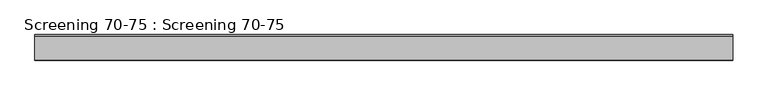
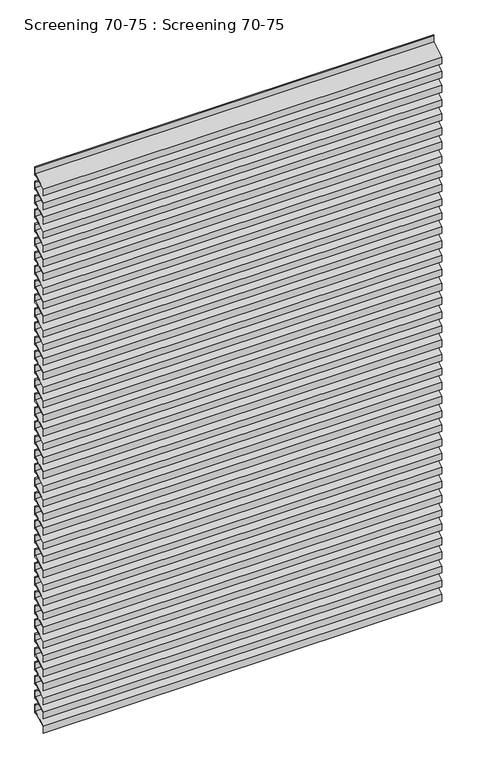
"""IFC4 building model written with IfcOpenShell, lengths in millimetres: plate geometry, Screening 70-75 : Screening 70-75."""

from ifc_helpers import new_model, si_unit, point, frame, frame_2d, origin, place, context, project, spatial, polyline, circle_curve, trimmed, segment, composite_curve, outline, extrude, source, transform, mapped, element, save


def screening_70_75_screening_70_75_e231e1b9(model_context):
    return source(origin(), model_context, "Body", "SweptSolid", [
        extrude(outline(composite_curve([segment(polyline([(-73.0, 2862.1), (-73.0, 2897.5291809)]), True, "CONTINUOUS"), segment(trimmed(circle_curve(frame_2d((-534.237547, 3776.0902569)), 992.2749816), [point((-73.0, 2897.5291809))], [point((-4.0, 2937.3663555))], True, "CARTESIAN"), True, "CONTINUOUS"), segment(polyline([(-4.0, 2937.3663555), (-4.0, 2968.009614), (0.0, 2971.1725089), (0.0, 2926.6482493), (-17.4871094, 2926.6482493)]), True, "CONTINUOUS"), segment(trimmed(circle_curve(frame_2d((-534.237547, 3776.0902569)), 994.2749816), [point((-17.4871094, 2926.6482493))], [point((-71.0, 2896.3211315))], False, "CARTESIAN"), True, "CONTINUOUS"), segment(polyline([(-71.0, 2896.3211315), (-71.0, 2862.1), (-73.0, 2862.1)]), True, "CONTINUOUS")], self_intersect=False)), frame((-1000.0, 0.0, 0.0), z_axis=(1.0, 0.0, 0.0), x_axis=(0.0, 1.0, 0.0)), (0.0, 0.0, 1.0), 2000.0),
        extrude(outline(composite_curve([segment(polyline([(-73.0, 2787.1), (-73.0, 2822.5291809)]), True, "CONTINUOUS"), segment(trimmed(circle_curve(frame_2d((-534.237547, 3701.0902569)), 992.2749816), [point((-73.0, 2822.5291809))], [point((-4.0, 2862.3663555))], True, "CARTESIAN"), True, "CONTINUOUS"), segment(polyline([(-4.0, 2862.3663555), (-4.0, 2893.009614), (0.0, 2896.1725089), (0.0, 2851.6482493), (-17.4871094, 2851.6482493)]), True, "CONTINUOUS"), segment(trimmed(circle_curve(frame_2d((-534.237547, 3701.0902569)), 994.2749816), [point((-17.4871094, 2851.6482493))], [point((-71.0, 2821.3211315))], False, "CARTESIAN"), True, "CONTINUOUS"), segment(polyline([(-71.0, 2821.3211315), (-71.0, 2787.1), (-73.0, 2787.1)]), True, "CONTINUOUS")], self_intersect=False)), frame((-1000.0, 0.0, 0.0), z_axis=(1.0, 0.0, 0.0), x_axis=(0.0, 1.0, 0.0)), (0.0, 0.0, 1.0), 2000.0),
        extrude(outline(composite_curve([segment(polyline([(-73.0, 2712.1), (-73.0, 2747.5291809)]), True, "CONTINUOUS"), segment(trimmed(circle_curve(frame_2d((-534.237547, 3626.0902569)), 992.2749816), [point((-73.0, 2747.5291809))], [point((-4.0, 2787.3663555))], True, "CARTESIAN"), True, "CONTINUOUS"), segment(polyline([(-4.0, 2787.3663555), (-4.0, 2818.009614), (0.0, 2821.1725089), (0.0, 2776.6482493), (-17.4871094, 2776.6482493)]), True, "CONTINUOUS"), segment(trimmed(circle_curve(frame_2d((-534.237547, 3626.0902569)), 994.2749816), [point((-17.4871094, 2776.6482493))], [point((-71.0, 2746.3211315))], False, "CARTESIAN"), True, "CONTINUOUS"), segment(polyline([(-71.0, 2746.3211315), (-71.0, 2712.1), (-73.0, 2712.1)]), True, "CONTINUOUS")], self_intersect=False)), frame((-1000.0, 0.0, 0.0), z_axis=(1.0, 0.0, 0.0), x_axis=(0.0, 1.0, 0.0)), (0.0, 0.0, 1.0), 2000.0),
        extrude(outline(composite_curve([segment(polyline([(-73.0, 2637.1), (-73.0, 2672.5291809)]), True, "CONTINUOUS"), segment(trimmed(circle_curve(frame_2d((-534.237547, 3551.0902569)), 992.2749816), [point((-73.0, 2672.5291809))], [point((-4.0, 2712.3663555))], True, "CARTESIAN"), True, "CONTINUOUS"), segment(polyline([(-4.0, 2712.3663555), (-4.0, 2743.009614), (0.0, 2746.1725089), (0.0, 2701.6482493), (-17.4871094, 2701.6482493)]), True, "CONTINUOUS"), segment(trimmed(circle_curve(frame_2d((-534.237547, 3551.0902569)), 994.2749816), [point((-17.4871094, 2701.6482493))], [point((-71.0, 2671.3211315))], False, "CARTESIAN"), True, "CONTINUOUS"), segment(polyline([(-71.0, 2671.3211315), (-71.0, 2637.1), (-73.0, 2637.1)]), True, "CONTINUOUS")], self_intersect=False)), frame((-1000.0, 0.0, 0.0), z_axis=(1.0, 0.0, 0.0), x_axis=(0.0, 1.0, 0.0)), (0.0, 0.0, 1.0), 2000.0),
        extrude(outline(composite_curve([segment(polyline([(-73.0, 2562.1), (-73.0, 2597.5291809)]), True, "CONTINUOUS"), segment(trimmed(circle_curve(frame_2d((-534.237547, 3476.0902569)), 992.2749816), [point((-73.0, 2597.5291809))], [point((-4.0, 2637.3663555))], True, "CARTESIAN"), True, "CONTINUOUS"), segment(polyline([(-4.0, 2637.3663555), (-4.0, 2668.009614), (0.0, 2671.1725089), (0.0, 2626.6482493), (-17.4871094, 2626.6482493)]), True, "CONTINUOUS"), segment(trimmed(circle_curve(frame_2d((-534.237547, 3476.0902569)), 994.2749816), [point((-17.4871094, 2626.6482493))], [point((-71.0, 2596.3211315))], False, "CARTESIAN"), True, "CONTINUOUS"), segment(polyline([(-71.0, 2596.3211315), (-71.0, 2562.1), (-73.0, 2562.1)]), True, "CONTINUOUS")], self_intersect=False)), frame((-1000.0, 0.0, 0.0), z_axis=(1.0, 0.0, 0.0), x_axis=(0.0, 1.0, 0.0)), (0.0, 0.0, 1.0), 2000.0),
        extrude(outline(composite_curve([segment(polyline([(-73.0, 2487.1), (-73.0, 2522.5291809)]), True, "CONTINUOUS"), segment(trimmed(circle_curve(frame_2d((-534.237547, 3401.0902569)), 992.2749816), [point((-73.0, 2522.5291809))], [point((-4.0, 2562.3663555))], True, "CARTESIAN"), True, "CONTINUOUS"), segment(polyline([(-4.0, 2562.3663555), (-4.0, 2593.009614), (0.0, 2596.1725089), (0.0, 2551.6482493), (-17.4871094, 2551.6482493)]), True, "CONTINUOUS"), segment(trimmed(circle_curve(frame_2d((-534.237547, 3401.0902569)), 994.2749816), [point((-17.4871094, 2551.6482493))], [point((-71.0, 2521.3211315))], False, "CARTESIAN"), True, "CONTINUOUS"), segment(polyline([(-71.0, 2521.3211315), (-71.0, 2487.1), (-73.0, 2487.1)]), True, "CONTINUOUS")], self_intersect=False)), frame((-1000.0, 0.0, 0.0), z_axis=(1.0, 0.0, 0.0), x_axis=(0.0, 1.0, 0.0)), (0.0, 0.0, 1.0), 2000.0),
        extrude(outline(composite_curve([segment(polyline([(-73.0, 2412.1), (-73.0, 2447.5291809)]), True, "CONTINUOUS"), segment(trimmed(circle_curve(frame_2d((-534.237547, 3326.0902569)), 992.2749816), [point((-73.0, 2447.5291809))], [point((-4.0, 2487.3663555))], True, "CARTESIAN"), True, "CONTINUOUS"), segment(polyline([(-4.0, 2487.3663555), (-4.0, 2518.009614), (0.0, 2521.1725089), (0.0, 2476.6482493), (-17.4871094, 2476.6482493)]), True, "CONTINUOUS"), segment(trimmed(circle_curve(frame_2d((-534.237547, 3326.0902569)), 994.2749816), [point((-17.4871094, 2476.6482493))], [point((-71.0, 2446.3211315))], False, "CARTESIAN"), True, "CONTINUOUS"), segment(polyline([(-71.0, 2446.3211315), (-71.0, 2412.1), (-73.0, 2412.1)]), True, "CONTINUOUS")], self_intersect=False)), frame((-1000.0, 0.0, 0.0), z_axis=(1.0, 0.0, 0.0), x_axis=(0.0, 1.0, 0.0)), (0.0, 0.0, 1.0), 2000.0),
        extrude(outline(composite_curve([segment(polyline([(-73.0, 2337.1), (-73.0, 2372.5291809)]), True, "CONTINUOUS"), segment(trimmed(circle_curve(frame_2d((-534.237547, 3251.0902569)), 992.2749816), [point((-73.0, 2372.5291809))], [point((-4.0, 2412.3663555))], True, "CARTESIAN"), True, "CONTINUOUS"), segment(polyline([(-4.0, 2412.3663555), (-4.0, 2443.009614), (0.0, 2446.1725089), (0.0, 2401.6482493), (-17.4871094, 2401.6482493)]), True, "CONTINUOUS"), segment(trimmed(circle_curve(frame_2d((-534.237547, 3251.0902569)), 994.2749816), [point((-17.4871094, 2401.6482493))], [point((-71.0, 2371.3211315))], False, "CARTESIAN"), True, "CONTINUOUS"), segment(polyline([(-71.0, 2371.3211315), (-71.0, 2337.1), (-73.0, 2337.1)]), True, "CONTINUOUS")], self_intersect=False)), frame((-1000.0, 0.0, 0.0), z_axis=(1.0, 0.0, 0.0), x_axis=(0.0, 1.0, 0.0)), (0.0, 0.0, 1.0), 2000.0),
        extrude(outline(composite_curve([segment(polyline([(-73.0, 2262.1), (-73.0, 2297.5291809)]), True, "CONTINUOUS"), segment(trimmed(circle_curve(frame_2d((-534.237547, 3176.0902569)), 992.2749816), [point((-73.0, 2297.5291809))], [point((-4.0, 2337.3663555))], True, "CARTESIAN"), True, "CONTINUOUS"), segment(polyline([(-4.0, 2337.3663555), (-4.0, 2368.009614), (0.0, 2371.1725089), (0.0, 2326.6482493), (-17.4871094, 2326.6482493)]), True, "CONTINUOUS"), segment(trimmed(circle_curve(frame_2d((-534.237547, 3176.0902569)), 994.2749816), [point((-17.4871094, 2326.6482493))], [point((-71.0, 2296.3211315))], False, "CARTESIAN"), True, "CONTINUOUS"), segment(polyline([(-71.0, 2296.3211315), (-71.0, 2262.1), (-73.0, 2262.1)]), True, "CONTINUOUS")], self_intersect=False)), frame((-1000.0, 0.0, 0.0), z_axis=(1.0, 0.0, 0.0), x_axis=(0.0, 1.0, 0.0)), (0.0, 0.0, 1.0), 2000.0),
        extrude(outline(composite_curve([segment(polyline([(-73.0, 2187.1), (-73.0, 2222.5291809)]), True, "CONTINUOUS"), segment(trimmed(circle_curve(frame_2d((-534.237547, 3101.0902569)), 992.2749816), [point((-73.0, 2222.5291809))], [point((-4.0, 2262.3663555))], True, "CARTESIAN"), True, "CONTINUOUS"), segment(polyline([(-4.0, 2262.3663555), (-4.0, 2293.009614), (0.0, 2296.1725089), (0.0, 2251.6482493), (-17.4871094, 2251.6482493)]), True, "CONTINUOUS"), segment(trimmed(circle_curve(frame_2d((-534.237547, 3101.0902569)), 994.2749816), [point((-17.4871094, 2251.6482493))], [point((-71.0, 2221.3211315))], False, "CARTESIAN"), True, "CONTINUOUS"), segment(polyline([(-71.0, 2221.3211315), (-71.0, 2187.1), (-73.0, 2187.1)]), True, "CONTINUOUS")], self_intersect=False)), frame((-1000.0, 0.0, 0.0), z_axis=(1.0, 0.0, 0.0), x_axis=(0.0, 1.0, 0.0)), (0.0, 0.0, 1.0), 2000.0),
        extrude(outline(composite_curve([segment(polyline([(-73.0, 2112.1), (-73.0, 2147.5291809)]), True, "CONTINUOUS"), segment(trimmed(circle_curve(frame_2d((-534.237547, 3026.0902569)), 992.2749816), [point((-73.0, 2147.5291809))], [point((-4.0, 2187.3663555))], True, "CARTESIAN"), True, "CONTINUOUS"), segment(polyline([(-4.0, 2187.3663555), (-4.0, 2218.009614), (0.0, 2221.1725089), (0.0, 2176.6482493), (-17.4871094, 2176.6482493)]), True, "CONTINUOUS"), segment(trimmed(circle_curve(frame_2d((-534.237547, 3026.0902569)), 994.2749816), [point((-17.4871094, 2176.6482493))], [point((-71.0, 2146.3211315))], False, "CARTESIAN"), True, "CONTINUOUS"), segment(polyline([(-71.0, 2146.3211315), (-71.0, 2112.1), (-73.0, 2112.1)]), True, "CONTINUOUS")], self_intersect=False)), frame((-1000.0, 0.0, 0.0), z_axis=(1.0, 0.0, 0.0), x_axis=(0.0, 1.0, 0.0)), (0.0, 0.0, 1.0), 2000.0),
        extrude(outline(composite_curve([segment(polyline([(-73.0, 2037.1), (-73.0, 2072.5291809)]), True, "CONTINUOUS"), segment(trimmed(circle_curve(frame_2d((-534.237547, 2951.0902569)), 992.2749816), [point((-73.0, 2072.5291809))], [point((-4.0, 2112.3663555))], True, "CARTESIAN"), True, "CONTINUOUS"), segment(polyline([(-4.0, 2112.3663555), (-4.0, 2143.009614), (0.0, 2146.1725089), (0.0, 2101.6482493), (-17.4871094, 2101.6482493)]), True, "CONTINUOUS"), segment(trimmed(circle_curve(frame_2d((-534.237547, 2951.0902569)), 994.2749816), [point((-17.4871094, 2101.6482493))], [point((-71.0, 2071.3211315))], False, "CARTESIAN"), True, "CONTINUOUS"), segment(polyline([(-71.0, 2071.3211315), (-71.0, 2037.1), (-73.0, 2037.1)]), True, "CONTINUOUS")], self_intersect=False)), frame((-1000.0, 0.0, 0.0), z_axis=(1.0, 0.0, 0.0), x_axis=(0.0, 1.0, 0.0)), (0.0, 0.0, 1.0), 2000.0),
        extrude(outline(composite_curve([segment(polyline([(-73.0, 1962.1), (-73.0, 1997.5291809)]), True, "CONTINUOUS"), segment(trimmed(circle_curve(frame_2d((-534.237547, 2876.0902569)), 992.2749816), [point((-73.0, 1997.5291809))], [point((-4.0, 2037.3663555))], True, "CARTESIAN"), True, "CONTINUOUS"), segment(polyline([(-4.0, 2037.3663555), (-4.0, 2068.009614), (0.0, 2071.1725089), (0.0, 2026.6482493), (-17.4871094, 2026.6482493)]), True, "CONTINUOUS"), segment(trimmed(circle_curve(frame_2d((-534.237547, 2876.0902569)), 994.2749816), [point((-17.4871094, 2026.6482493))], [point((-71.0, 1996.3211315))], False, "CARTESIAN"), True, "CONTINUOUS"), segment(polyline([(-71.0, 1996.3211315), (-71.0, 1962.1), (-73.0, 1962.1)]), True, "CONTINUOUS")], self_intersect=False)), frame((-1000.0, 0.0, 0.0), z_axis=(1.0, 0.0, 0.0), x_axis=(0.0, 1.0, 0.0)), (0.0, 0.0, 1.0), 2000.0),
        extrude(outline(composite_curve([segment(polyline([(-73.0, 1887.1), (-73.0, 1922.5291809)]), True, "CONTINUOUS"), segment(trimmed(circle_curve(frame_2d((-534.237547, 2801.0902569)), 992.2749816), [point((-73.0, 1922.5291809))], [point((-4.0, 1962.3663555))], True, "CARTESIAN"), True, "CONTINUOUS"), segment(polyline([(-4.0, 1962.3663555), (-4.0, 1993.009614), (0.0, 1996.1725089), (0.0, 1951.6482493), (-17.4871094, 1951.6482493)]), True, "CONTINUOUS"), segment(trimmed(circle_curve(frame_2d((-534.237547, 2801.0902569)), 994.2749816), [point((-17.4871094, 1951.6482493))], [point((-71.0, 1921.3211315))], False, "CARTESIAN"), True, "CONTINUOUS"), segment(polyline([(-71.0, 1921.3211315), (-71.0, 1887.1), (-73.0, 1887.1)]), True, "CONTINUOUS")], self_intersect=False)), frame((-1000.0, 0.0, 0.0), z_axis=(1.0, 0.0, 0.0), x_axis=(0.0, 1.0, 0.0)), (0.0, 0.0, 1.0), 2000.0),
        extrude(outline(composite_curve([segment(polyline([(-73.0, 1812.1), (-73.0, 1847.5291809)]), True, "CONTINUOUS"), segment(trimmed(circle_curve(frame_2d((-534.237547, 2726.0902569)), 992.2749816), [point((-73.0, 1847.5291809))], [point((-4.0, 1887.3663555))], True, "CARTESIAN"), True, "CONTINUOUS"), segment(polyline([(-4.0, 1887.3663555), (-4.0, 1918.009614), (0.0, 1921.1725089), (0.0, 1876.6482493), (-17.4871094, 1876.6482493)]), True, "CONTINUOUS"), segment(trimmed(circle_curve(frame_2d((-534.237547, 2726.0902569)), 994.2749816), [point((-17.4871094, 1876.6482493))], [point((-71.0, 1846.3211315))], False, "CARTESIAN"), True, "CONTINUOUS"), segment(polyline([(-71.0, 1846.3211315), (-71.0, 1812.1), (-73.0, 1812.1)]), True, "CONTINUOUS")], self_intersect=False)), frame((-1000.0, 0.0, 0.0), z_axis=(1.0, 0.0, 0.0), x_axis=(0.0, 1.0, 0.0)), (0.0, 0.0, 1.0), 2000.0),
        extrude(outline(composite_curve([segment(polyline([(-73.0, 1737.1), (-73.0, 1772.5291809)]), True, "CONTINUOUS"), segment(trimmed(circle_curve(frame_2d((-534.237547, 2651.0902569)), 992.2749816), [point((-73.0, 1772.5291809))], [point((-4.0, 1812.3663555))], True, "CARTESIAN"), True, "CONTINUOUS"), segment(polyline([(-4.0, 1812.3663555), (-4.0, 1843.009614), (0.0, 1846.1725089), (0.0, 1801.6482493), (-17.4871094, 1801.6482493)]), True, "CONTINUOUS"), segment(trimmed(circle_curve(frame_2d((-534.237547, 2651.0902569)), 994.2749816), [point((-17.4871094, 1801.6482493))], [point((-71.0, 1771.3211315))], False, "CARTESIAN"), True, "CONTINUOUS"), segment(polyline([(-71.0, 1771.3211315), (-71.0, 1737.1), (-73.0, 1737.1)]), True, "CONTINUOUS")], self_intersect=False)), frame((-1000.0, 0.0, 0.0), z_axis=(1.0, 0.0, 0.0), x_axis=(0.0, 1.0, 0.0)), (0.0, 0.0, 1.0), 2000.0),
        extrude(outline(composite_curve([segment(polyline([(-73.0, 1662.1), (-73.0, 1697.5291809)]), True, "CONTINUOUS"), segment(trimmed(circle_curve(frame_2d((-534.237547, 2576.0902569)), 992.2749816), [point((-73.0, 1697.5291809))], [point((-4.0, 1737.3663555))], True, "CARTESIAN"), True, "CONTINUOUS"), segment(polyline([(-4.0, 1737.3663555), (-4.0, 1768.009614), (0.0, 1771.1725089), (0.0, 1726.6482493), (-17.4871094, 1726.6482493)]), True, "CONTINUOUS"), segment(trimmed(circle_curve(frame_2d((-534.237547, 2576.0902569)), 994.2749816), [point((-17.4871094, 1726.6482493))], [point((-71.0, 1696.3211315))], False, "CARTESIAN"), True, "CONTINUOUS"), segment(polyline([(-71.0, 1696.3211315), (-71.0, 1662.1), (-73.0, 1662.1)]), True, "CONTINUOUS")], self_intersect=False)), frame((-1000.0, 0.0, 0.0), z_axis=(1.0, 0.0, 0.0), x_axis=(0.0, 1.0, 0.0)), (0.0, 0.0, 1.0), 2000.0),
        extrude(outline(composite_curve([segment(polyline([(-73.0, 1587.1), (-73.0, 1622.5291809)]), True, "CONTINUOUS"), segment(trimmed(circle_curve(frame_2d((-534.237547, 2501.0902569)), 992.2749816), [point((-73.0, 1622.5291809))], [point((-4.0, 1662.3663555))], True, "CARTESIAN"), True, "CONTINUOUS"), segment(polyline([(-4.0, 1662.3663555), (-4.0, 1693.009614), (0.0, 1696.1725089), (0.0, 1651.6482493), (-17.4871094, 1651.6482493)]), True, "CONTINUOUS"), segment(trimmed(circle_curve(frame_2d((-534.237547, 2501.0902569)), 994.2749816), [point((-17.4871094, 1651.6482493))], [point((-71.0, 1621.3211315))], False, "CARTESIAN"), True, "CONTINUOUS"), segment(polyline([(-71.0, 1621.3211315), (-71.0, 1587.1), (-73.0, 1587.1)]), True, "CONTINUOUS")], self_intersect=False)), frame((-1000.0, 0.0, 0.0), z_axis=(1.0, 0.0, 0.0), x_axis=(0.0, 1.0, 0.0)), (0.0, 0.0, 1.0), 2000.0),
        extrude(outline(composite_curve([segment(polyline([(-73.0, 1512.1), (-73.0, 1547.5291809)]), True, "CONTINUOUS"), segment(trimmed(circle_curve(frame_2d((-534.237547, 2426.0902569)), 992.2749816), [point((-73.0, 1547.5291809))], [point((-4.0, 1587.3663555))], True, "CARTESIAN"), True, "CONTINUOUS"), segment(polyline([(-4.0, 1587.3663555), (-4.0, 1618.009614), (0.0, 1621.1725089), (0.0, 1576.6482493), (-17.4871094, 1576.6482493)]), True, "CONTINUOUS"), segment(trimmed(circle_curve(frame_2d((-534.237547, 2426.0902569)), 994.2749816), [point((-17.4871094, 1576.6482493))], [point((-71.0, 1546.3211315))], False, "CARTESIAN"), True, "CONTINUOUS"), segment(polyline([(-71.0, 1546.3211315), (-71.0, 1512.1), (-73.0, 1512.1)]), True, "CONTINUOUS")], self_intersect=False)), frame((-1000.0, 0.0, 0.0), z_axis=(1.0, 0.0, 0.0), x_axis=(0.0, 1.0, 0.0)), (0.0, 0.0, 1.0), 2000.0),
        extrude(outline(composite_curve([segment(polyline([(-73.0, 1437.1), (-73.0, 1472.5291809)]), True, "CONTINUOUS"), segment(trimmed(circle_curve(frame_2d((-534.237547, 2351.0902569)), 992.2749816), [point((-73.0, 1472.5291809))], [point((-4.0, 1512.3663555))], True, "CARTESIAN"), True, "CONTINUOUS"), segment(polyline([(-4.0, 1512.3663555), (-4.0, 1543.009614), (0.0, 1546.1725089), (0.0, 1501.6482493), (-17.4871094, 1501.6482493)]), True, "CONTINUOUS"), segment(trimmed(circle_curve(frame_2d((-534.237547, 2351.0902569)), 994.2749816), [point((-17.4871094, 1501.6482493))], [point((-71.0, 1471.3211315))], False, "CARTESIAN"), True, "CONTINUOUS"), segment(polyline([(-71.0, 1471.3211315), (-71.0, 1437.1), (-73.0, 1437.1)]), True, "CONTINUOUS")], self_intersect=False)), frame((-1000.0, 0.0, 0.0), z_axis=(1.0, 0.0, 0.0), x_axis=(0.0, 1.0, 0.0)), (0.0, 0.0, 1.0), 2000.0),
        extrude(outline(composite_curve([segment(polyline([(-73.0, 1362.1), (-73.0, 1397.5291809)]), True, "CONTINUOUS"), segment(trimmed(circle_curve(frame_2d((-534.237547, 2276.0902569)), 992.2749816), [point((-73.0, 1397.5291809))], [point((-4.0, 1437.3663555))], True, "CARTESIAN"), True, "CONTINUOUS"), segment(polyline([(-4.0, 1437.3663555), (-4.0, 1468.009614), (0.0, 1471.1725089), (0.0, 1426.6482493), (-17.4871094, 1426.6482493)]), True, "CONTINUOUS"), segment(trimmed(circle_curve(frame_2d((-534.237547, 2276.0902569)), 994.2749816), [point((-17.4871094, 1426.6482493))], [point((-71.0, 1396.3211315))], False, "CARTESIAN"), True, "CONTINUOUS"), segment(polyline([(-71.0, 1396.3211315), (-71.0, 1362.1), (-73.0, 1362.1)]), True, "CONTINUOUS")], self_intersect=False)), frame((-1000.0, 0.0, 0.0), z_axis=(1.0, 0.0, 0.0), x_axis=(0.0, 1.0, 0.0)), (0.0, 0.0, 1.0), 2000.0),
        extrude(outline(composite_curve([segment(polyline([(-73.0, 1287.1), (-73.0, 1322.5291809)]), True, "CONTINUOUS"), segment(trimmed(circle_curve(frame_2d((-534.237547, 2201.0902569)), 992.2749816), [point((-73.0, 1322.5291809))], [point((-4.0, 1362.3663555))], True, "CARTESIAN"), True, "CONTINUOUS"), segment(polyline([(-4.0, 1362.3663555), (-4.0, 1393.009614), (0.0, 1396.1725089), (0.0, 1351.6482493), (-17.4871094, 1351.6482493)]), True, "CONTINUOUS"), segment(trimmed(circle_curve(frame_2d((-534.237547, 2201.0902569)), 994.2749816), [point((-17.4871094, 1351.6482493))], [point((-71.0, 1321.3211315))], False, "CARTESIAN"), True, "CONTINUOUS"), segment(polyline([(-71.0, 1321.3211315), (-71.0, 1287.1), (-73.0, 1287.1)]), True, "CONTINUOUS")], self_intersect=False)), frame((-1000.0, 0.0, 0.0), z_axis=(1.0, 0.0, 0.0), x_axis=(0.0, 1.0, 0.0)), (0.0, 0.0, 1.0), 2000.0),
        extrude(outline(composite_curve([segment(polyline([(-73.0, 1212.1), (-73.0, 1247.5291809)]), True, "CONTINUOUS"), segment(trimmed(circle_curve(frame_2d((-534.237547, 2126.0902569)), 992.2749816), [point((-73.0, 1247.5291809))], [point((-4.0, 1287.3663555))], True, "CARTESIAN"), True, "CONTINUOUS"), segment(polyline([(-4.0, 1287.3663555), (-4.0, 1318.009614), (0.0, 1321.1725089), (0.0, 1276.6482493), (-17.4871094, 1276.6482493)]), True, "CONTINUOUS"), segment(trimmed(circle_curve(frame_2d((-534.237547, 2126.0902569)), 994.2749816), [point((-17.4871094, 1276.6482493))], [point((-71.0, 1246.3211315))], False, "CARTESIAN"), True, "CONTINUOUS"), segment(polyline([(-71.0, 1246.3211315), (-71.0, 1212.1), (-73.0, 1212.1)]), True, "CONTINUOUS")], self_intersect=False)), frame((-1000.0, 0.0, 0.0), z_axis=(1.0, 0.0, 0.0), x_axis=(0.0, 1.0, 0.0)), (0.0, 0.0, 1.0), 2000.0),
        extrude(outline(composite_curve([segment(polyline([(-73.0, 1137.1), (-73.0, 1172.5291809)]), True, "CONTINUOUS"), segment(trimmed(circle_curve(frame_2d((-534.237547, 2051.0902569)), 992.2749816), [point((-73.0, 1172.5291809))], [point((-4.0, 1212.3663555))], True, "CARTESIAN"), True, "CONTINUOUS"), segment(polyline([(-4.0, 1212.3663555), (-4.0, 1243.009614), (0.0, 1246.1725089), (0.0, 1201.6482493), (-17.4871094, 1201.6482493)]), True, "CONTINUOUS"), segment(trimmed(circle_curve(frame_2d((-534.237547, 2051.0902569)), 994.2749816), [point((-17.4871094, 1201.6482493))], [point((-71.0, 1171.3211315))], False, "CARTESIAN"), True, "CONTINUOUS"), segment(polyline([(-71.0, 1171.3211315), (-71.0, 1137.1), (-73.0, 1137.1)]), True, "CONTINUOUS")], self_intersect=False)), frame((-1000.0, 0.0, 0.0), z_axis=(1.0, 0.0, 0.0), x_axis=(0.0, 1.0, 0.0)), (0.0, 0.0, 1.0), 2000.0),
        extrude(outline(composite_curve([segment(polyline([(-73.0, 1062.1), (-73.0, 1097.5291809)]), True, "CONTINUOUS"), segment(trimmed(circle_curve(frame_2d((-534.237547, 1976.0902569)), 992.2749816), [point((-73.0, 1097.5291809))], [point((-4.0, 1137.3663555))], True, "CARTESIAN"), True, "CONTINUOUS"), segment(polyline([(-4.0, 1137.3663555), (-4.0, 1168.009614), (0.0, 1171.1725089), (0.0, 1126.6482493), (-17.4871094, 1126.6482493)]), True, "CONTINUOUS"), segment(trimmed(circle_curve(frame_2d((-534.237547, 1976.0902569)), 994.2749816), [point((-17.4871094, 1126.6482493))], [point((-71.0, 1096.3211315))], False, "CARTESIAN"), True, "CONTINUOUS"), segment(polyline([(-71.0, 1096.3211315), (-71.0, 1062.1), (-73.0, 1062.1)]), True, "CONTINUOUS")], self_intersect=False)), frame((-1000.0, 0.0, 0.0), z_axis=(1.0, 0.0, 0.0), x_axis=(0.0, 1.0, 0.0)), (0.0, 0.0, 1.0), 2000.0),
        extrude(outline(composite_curve([segment(polyline([(-73.0, 987.1), (-73.0, 1022.5291809)]), True, "CONTINUOUS"), segment(trimmed(circle_curve(frame_2d((-534.237547, 1901.0902569)), 992.2749816), [point((-73.0, 1022.5291809))], [point((-4.0, 1062.3663555))], True, "CARTESIAN"), True, "CONTINUOUS"), segment(polyline([(-4.0, 1062.3663555), (-4.0, 1093.009614), (0.0, 1096.1725089), (0.0, 1051.6482493), (-17.4871094, 1051.6482493)]), True, "CONTINUOUS"), segment(trimmed(circle_curve(frame_2d((-534.237547, 1901.0902569)), 994.2749816), [point((-17.4871094, 1051.6482493))], [point((-71.0, 1021.3211315))], False, "CARTESIAN"), True, "CONTINUOUS"), segment(polyline([(-71.0, 1021.3211315), (-71.0, 987.1), (-73.0, 987.1)]), True, "CONTINUOUS")], self_intersect=False)), frame((-1000.0, 0.0, 0.0), z_axis=(1.0, 0.0, 0.0), x_axis=(0.0, 1.0, 0.0)), (0.0, 0.0, 1.0), 2000.0),
        extrude(outline(composite_curve([segment(polyline([(-73.0, 912.1), (-73.0, 947.5291809)]), True, "CONTINUOUS"), segment(trimmed(circle_curve(frame_2d((-534.237547, 1826.0902569)), 992.2749816), [point((-73.0, 947.5291809))], [point((-4.0, 987.3663555))], True, "CARTESIAN"), True, "CONTINUOUS"), segment(polyline([(-4.0, 987.3663555), (-4.0, 1018.009614), (0.0, 1021.1725089), (0.0, 976.6482493), (-17.4871094, 976.6482493)]), True, "CONTINUOUS"), segment(trimmed(circle_curve(frame_2d((-534.237547, 1826.0902569)), 994.2749816), [point((-17.4871094, 976.6482493))], [point((-71.0, 946.3211315))], False, "CARTESIAN"), True, "CONTINUOUS"), segment(polyline([(-71.0, 946.3211315), (-71.0, 912.1), (-73.0, 912.1)]), True, "CONTINUOUS")], self_intersect=False)), frame((-1000.0, 0.0, 0.0), z_axis=(1.0, 0.0, 0.0), x_axis=(0.0, 1.0, 0.0)), (0.0, 0.0, 1.0), 2000.0),
        extrude(outline(composite_curve([segment(polyline([(-73.0, 837.1), (-73.0, 872.5291809)]), True, "CONTINUOUS"), segment(trimmed(circle_curve(frame_2d((-534.237547, 1751.0902569)), 992.2749816), [point((-73.0, 872.5291809))], [point((-4.0, 912.3663555))], True, "CARTESIAN"), True, "CONTINUOUS"), segment(polyline([(-4.0, 912.3663555), (-4.0, 943.009614), (0.0, 946.1725089), (0.0, 901.6482493), (-17.4871094, 901.6482493)]), True, "CONTINUOUS"), segment(trimmed(circle_curve(frame_2d((-534.237547, 1751.0902569)), 994.2749816), [point((-17.4871094, 901.6482493))], [point((-71.0, 871.3211315))], False, "CARTESIAN"), True, "CONTINUOUS"), segment(polyline([(-71.0, 871.3211315), (-71.0, 837.1), (-73.0, 837.1)]), True, "CONTINUOUS")], self_intersect=False)), frame((-1000.0, 0.0, 0.0), z_axis=(1.0, 0.0, 0.0), x_axis=(0.0, 1.0, 0.0)), (0.0, 0.0, 1.0), 2000.0),
        extrude(outline(composite_curve([segment(polyline([(-73.0, 762.1), (-73.0, 797.5291809)]), True, "CONTINUOUS"), segment(trimmed(circle_curve(frame_2d((-534.237547, 1676.0902569)), 992.2749816), [point((-73.0, 797.5291809))], [point((-4.0, 837.3663555))], True, "CARTESIAN"), True, "CONTINUOUS"), segment(polyline([(-4.0, 837.3663555), (-4.0, 868.009614), (0.0, 871.1725089), (0.0, 826.6482493), (-17.4871094, 826.6482493)]), True, "CONTINUOUS"), segment(trimmed(circle_curve(frame_2d((-534.237547, 1676.0902569)), 994.2749816), [point((-17.4871094, 826.6482493))], [point((-71.0, 796.3211315))], False, "CARTESIAN"), True, "CONTINUOUS"), segment(polyline([(-71.0, 796.3211315), (-71.0, 762.1), (-73.0, 762.1)]), True, "CONTINUOUS")], self_intersect=False)), frame((-1000.0, 0.0, 0.0), z_axis=(1.0, 0.0, 0.0), x_axis=(0.0, 1.0, 0.0)), (0.0, 0.0, 1.0), 2000.0),
        extrude(outline(composite_curve([segment(polyline([(-73.0, 687.1), (-73.0, 722.5291809)]), True, "CONTINUOUS"), segment(trimmed(circle_curve(frame_2d((-534.237547, 1601.0902569)), 992.2749816), [point((-73.0, 722.5291809))], [point((-4.0, 762.3663555))], True, "CARTESIAN"), True, "CONTINUOUS"), segment(polyline([(-4.0, 762.3663555), (-4.0, 793.009614), (0.0, 796.1725089), (0.0, 751.6482493), (-17.4871094, 751.6482493)]), True, "CONTINUOUS"), segment(trimmed(circle_curve(frame_2d((-534.237547, 1601.0902569)), 994.2749816), [point((-17.4871094, 751.6482493))], [point((-71.0, 721.3211315))], False, "CARTESIAN"), True, "CONTINUOUS"), segment(polyline([(-71.0, 721.3211315), (-71.0, 687.1), (-73.0, 687.1)]), True, "CONTINUOUS")], self_intersect=False)), frame((-1000.0, 0.0, 0.0), z_axis=(1.0, 0.0, 0.0), x_axis=(0.0, 1.0, 0.0)), (0.0, 0.0, 1.0), 2000.0),
        extrude(outline(composite_curve([segment(polyline([(-73.0, 612.1), (-73.0, 647.5291809)]), True, "CONTINUOUS"), segment(trimmed(circle_curve(frame_2d((-534.237547, 1526.0902569)), 992.2749816), [point((-73.0, 647.5291809))], [point((-4.0, 687.3663555))], True, "CARTESIAN"), True, "CONTINUOUS"), segment(polyline([(-4.0, 687.3663555), (-4.0, 718.009614), (0.0, 721.1725089), (0.0, 676.6482493), (-17.4871094, 676.6482493)]), True, "CONTINUOUS"), segment(trimmed(circle_curve(frame_2d((-534.237547, 1526.0902569)), 994.2749816), [point((-17.4871094, 676.6482493))], [point((-71.0, 646.3211315))], False, "CARTESIAN"), True, "CONTINUOUS"), segment(polyline([(-71.0, 646.3211315), (-71.0, 612.1), (-73.0, 612.1)]), True, "CONTINUOUS")], self_intersect=False)), frame((-1000.0, 0.0, 0.0), z_axis=(1.0, 0.0, 0.0), x_axis=(0.0, 1.0, 0.0)), (0.0, 0.0, 1.0), 2000.0),
        extrude(outline(composite_curve([segment(polyline([(-73.0, 537.1), (-73.0, 572.5291809)]), True, "CONTINUOUS"), segment(trimmed(circle_curve(frame_2d((-534.237547, 1451.0902569)), 992.2749816), [point((-73.0, 572.5291809))], [point((-4.0, 612.3663555))], True, "CARTESIAN"), True, "CONTINUOUS"), segment(polyline([(-4.0, 612.3663555), (-4.0, 643.009614), (0.0, 646.1725089), (0.0, 601.6482493), (-17.4871094, 601.6482493)]), True, "CONTINUOUS"), segment(trimmed(circle_curve(frame_2d((-534.237547, 1451.0902569)), 994.2749816), [point((-17.4871094, 601.6482493))], [point((-71.0, 571.3211315))], False, "CARTESIAN"), True, "CONTINUOUS"), segment(polyline([(-71.0, 571.3211315), (-71.0, 537.1), (-73.0, 537.1)]), True, "CONTINUOUS")], self_intersect=False)), frame((-1000.0, 0.0, 0.0), z_axis=(1.0, 0.0, 0.0), x_axis=(0.0, 1.0, 0.0)), (0.0, 0.0, 1.0), 2000.0),
        extrude(outline(composite_curve([segment(polyline([(-73.0, 462.1), (-73.0, 497.5291809)]), True, "CONTINUOUS"), segment(trimmed(circle_curve(frame_2d((-534.237547, 1376.0902569)), 992.2749816), [point((-73.0, 497.5291809))], [point((-4.0, 537.3663555))], True, "CARTESIAN"), True, "CONTINUOUS"), segment(polyline([(-4.0, 537.3663555), (-4.0, 568.009614), (0.0, 571.1725089), (0.0, 526.6482493), (-17.4871094, 526.6482493)]), True, "CONTINUOUS"), segment(trimmed(circle_curve(frame_2d((-534.237547, 1376.0902569)), 994.2749816), [point((-17.4871094, 526.6482493))], [point((-71.0, 496.3211315))], False, "CARTESIAN"), True, "CONTINUOUS"), segment(polyline([(-71.0, 496.3211315), (-71.0, 462.1), (-73.0, 462.1)]), True, "CONTINUOUS")], self_intersect=False)), frame((-1000.0, 0.0, 0.0), z_axis=(1.0, 0.0, 0.0), x_axis=(0.0, 1.0, 0.0)), (0.0, 0.0, 1.0), 2000.0),
        extrude(outline(composite_curve([segment(polyline([(-73.0, 387.1), (-73.0, 422.5291809)]), True, "CONTINUOUS"), segment(trimmed(circle_curve(frame_2d((-534.237547, 1301.0902569)), 992.2749816), [point((-73.0, 422.5291809))], [point((-4.0, 462.3663555))], True, "CARTESIAN"), True, "CONTINUOUS"), segment(polyline([(-4.0, 462.3663555), (-4.0, 493.009614), (0.0, 496.1725089), (0.0, 451.6482493), (-17.4871094, 451.6482493)]), True, "CONTINUOUS"), segment(trimmed(circle_curve(frame_2d((-534.237547, 1301.0902569)), 994.2749816), [point((-17.4871094, 451.6482493))], [point((-71.0, 421.3211315))], False, "CARTESIAN"), True, "CONTINUOUS"), segment(polyline([(-71.0, 421.3211315), (-71.0, 387.1), (-73.0, 387.1)]), True, "CONTINUOUS")], self_intersect=False)), frame((-1000.0, 0.0, 0.0), z_axis=(1.0, 0.0, 0.0), x_axis=(0.0, 1.0, 0.0)), (0.0, 0.0, 1.0), 2000.0),
        extrude(outline(composite_curve([segment(polyline([(-73.0, 312.1), (-73.0, 347.5291809)]), True, "CONTINUOUS"), segment(trimmed(circle_curve(frame_2d((-534.237547, 1226.0902569)), 992.2749816), [point((-73.0, 347.5291809))], [point((-4.0, 387.3663555))], True, "CARTESIAN"), True, "CONTINUOUS"), segment(polyline([(-4.0, 387.3663555), (-4.0, 418.009614), (0.0, 421.1725089), (0.0, 376.6482493), (-17.4871094, 376.6482493)]), True, "CONTINUOUS"), segment(trimmed(circle_curve(frame_2d((-534.237547, 1226.0902569)), 994.2749816), [point((-17.4871094, 376.6482493))], [point((-71.0, 346.3211315))], False, "CARTESIAN"), True, "CONTINUOUS"), segment(polyline([(-71.0, 346.3211315), (-71.0, 312.1), (-73.0, 312.1)]), True, "CONTINUOUS")], self_intersect=False)), frame((-1000.0, 0.0, 0.0), z_axis=(1.0, 0.0, 0.0), x_axis=(0.0, 1.0, 0.0)), (0.0, 0.0, 1.0), 2000.0),
        extrude(outline(composite_curve([segment(polyline([(-73.0, 237.1), (-73.0, 272.5291809)]), True, "CONTINUOUS"), segment(trimmed(circle_curve(frame_2d((-534.237547, 1151.0902569)), 992.2749816), [point((-73.0, 272.5291809))], [point((-4.0, 312.3663555))], True, "CARTESIAN"), True, "CONTINUOUS"), segment(polyline([(-4.0, 312.3663555), (-4.0, 343.009614), (0.0, 346.1725089), (0.0, 301.6482493), (-17.4871094, 301.6482493)]), True, "CONTINUOUS"), segment(trimmed(circle_curve(frame_2d((-534.237547, 1151.0902569)), 994.2749816), [point((-17.4871094, 301.6482493))], [point((-71.0, 271.3211315))], False, "CARTESIAN"), True, "CONTINUOUS"), segment(polyline([(-71.0, 271.3211315), (-71.0, 237.1), (-73.0, 237.1)]), True, "CONTINUOUS")], self_intersect=False)), frame((-1000.0, 0.0, 0.0), z_axis=(1.0, 0.0, 0.0), x_axis=(0.0, 1.0, 0.0)), (0.0, 0.0, 1.0), 2000.0),
        extrude(outline(composite_curve([segment(polyline([(-73.0, 162.1), (-73.0, 197.5291809)]), True, "CONTINUOUS"), segment(trimmed(circle_curve(frame_2d((-534.237547, 1076.0902569)), 992.2749816), [point((-73.0, 197.5291809))], [point((-4.0, 237.3663555))], True, "CARTESIAN"), True, "CONTINUOUS"), segment(polyline([(-4.0, 237.3663555), (-4.0, 268.009614), (0.0, 271.1725089), (0.0, 226.6482493), (-17.4871094, 226.6482493)]), True, "CONTINUOUS"), segment(trimmed(circle_curve(frame_2d((-534.237547, 1076.0902569)), 994.2749816), [point((-17.4871094, 226.6482493))], [point((-71.0, 196.3211315))], False, "CARTESIAN"), True, "CONTINUOUS"), segment(polyline([(-71.0, 196.3211315), (-71.0, 162.1), (-73.0, 162.1)]), True, "CONTINUOUS")], self_intersect=False)), frame((-1000.0, 0.0, 0.0), z_axis=(1.0, 0.0, 0.0), x_axis=(0.0, 1.0, 0.0)), (0.0, 0.0, 1.0), 2000.0),
        extrude(outline(composite_curve([segment(polyline([(-73.0, 87.1), (-73.0, 122.5291809)]), True, "CONTINUOUS"), segment(trimmed(circle_curve(frame_2d((-534.237547, 1001.0902569)), 992.2749816), [point((-73.0, 122.5291809))], [point((-4.0, 162.3663555))], True, "CARTESIAN"), True, "CONTINUOUS"), segment(polyline([(-4.0, 162.3663555), (-4.0, 193.009614), (0.0, 196.1725089), (0.0, 151.6482493), (-17.4871094, 151.6482493)]), True, "CONTINUOUS"), segment(trimmed(circle_curve(frame_2d((-534.237547, 1001.0902569)), 994.2749816), [point((-17.4871094, 151.6482493))], [point((-71.0, 121.3211315))], False, "CARTESIAN"), True, "CONTINUOUS"), segment(polyline([(-71.0, 121.3211315), (-71.0, 87.1), (-73.0, 87.1)]), True, "CONTINUOUS")], self_intersect=False)), frame((-1000.0, 0.0, 0.0), z_axis=(1.0, 0.0, 0.0), x_axis=(0.0, 1.0, 0.0)), (0.0, 0.0, 1.0), 2000.0),
        extrude(outline(composite_curve([segment(polyline([(-73.0, 12.1), (-73.0, 47.5291809)]), True, "CONTINUOUS"), segment(trimmed(circle_curve(frame_2d((-534.237547, 926.0902569)), 992.2749816), [point((-73.0, 47.5291809))], [point((-4.0, 87.3663555))], True, "CARTESIAN"), True, "CONTINUOUS"), segment(polyline([(-4.0, 87.3663555), (-4.0, 118.009614), (0.0, 121.1725089), (0.0, 76.6482493), (-17.4871094, 76.6482493)]), True, "CONTINUOUS"), segment(trimmed(circle_curve(frame_2d((-534.237547, 926.0902569)), 994.2749816), [point((-17.4871094, 76.6482493))], [point((-71.0, 46.3211315))], False, "CARTESIAN"), True, "CONTINUOUS"), segment(polyline([(-71.0, 46.3211315), (-71.0, 12.1), (-73.0, 12.1)]), True, "CONTINUOUS")], self_intersect=False)), frame((-1000.0, 0.0, 0.0), z_axis=(1.0, 0.0, 0.0), x_axis=(0.0, 1.0, 0.0)), (0.0, 0.0, 1.0), 2000.0),
    ])


if __name__ == "__main__":
    model = new_model("IFC4")
    model_context = context("Model", 3, world=origin())
    ifc_project = project(units=[si_unit("LENGTHUNIT", "METRE", prefix="MILLI")], contexts=[model_context])
    site = spatial("IfcSite", under=ifc_project)
    building = spatial("IfcBuilding", under=site)
    placement = place(None, origin())
    screening_70_75_screening_70_75_shape = screening_70_75_screening_70_75_e231e1b9(model_context)
    element("IfcPlate", 1, ObjectType="Screening 70-75 : Screening 70-75", at=placement, inside=building, context=model_context, shape_type="MappedRepresentation", body=[
        mapped(screening_70_75_screening_70_75_shape, transform((0.0, 0.0, 0.0), x_axis=(1.0, 0.0, 0.0), y_axis=(0.0, 1.0, 0.0), z_axis=(0.0, 0.0, 1.0))),
    ])
    save(model, "model.ifc")
